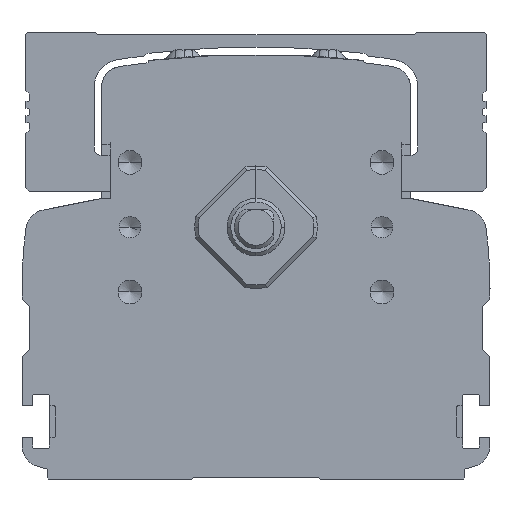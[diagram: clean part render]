
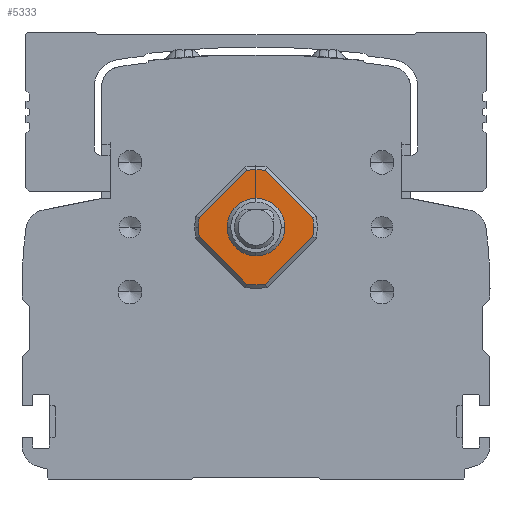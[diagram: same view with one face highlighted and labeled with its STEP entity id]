
A CAD part, front view. The second image highlights one B-rep face of the part: STEP entity #5333.
In plain terms, the highlighted planar face has unit normal (0, -1, 0).
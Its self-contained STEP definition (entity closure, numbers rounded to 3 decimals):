
#5333=ADVANCED_FACE('',(#10581,#10582),#10583,.T.);
#10581=FACE_OUTER_BOUND('',#16682,.T.);
#10582=FACE_BOUND('',#16683,.T.);
#10583=PLANE('',#16684);
#16682=EDGE_LOOP('',(#31707,#31708,#31709,#31710,#31711,#31712,#31713,#31714,#31715,#31716));
#16683=EDGE_LOOP('',(#31717,#31718));
#16684=AXIS2_PLACEMENT_3D('',#31719,#31720,#31721);
#31707=ORIENTED_EDGE('',*,*,#34114,.T.);
#31708=ORIENTED_EDGE('',*,*,#37804,.T.);
#31709=ORIENTED_EDGE('',*,*,#32008,.T.);
#31710=ORIENTED_EDGE('',*,*,#37887,.T.);
#31711=ORIENTED_EDGE('',*,*,#33951,.T.);
#31712=ORIENTED_EDGE('',*,*,#37901,.T.);
#31713=ORIENTED_EDGE('',*,*,#32829,.T.);
#31714=ORIENTED_EDGE('',*,*,#33580,.T.);
#31715=ORIENTED_EDGE('',*,*,#34669,.T.);
#31716=ORIENTED_EDGE('',*,*,#35233,.T.);
#31717=ORIENTED_EDGE('',*,*,#37892,.T.);
#31718=ORIENTED_EDGE('',*,*,#34532,.T.);
#31719=CARTESIAN_POINT('',(300.,108.0,9.899));
#31720=DIRECTION('',(0.,-1.0,0.));
#31721=DIRECTION('',(1.0,0.,0.));
#32008=EDGE_CURVE('',#38006,#38003,#38007,.F.);
#32829=EDGE_CURVE('',#39385,#39386,#39387,.T.);
#33580=EDGE_CURVE('',#39386,#40632,#40634,.F.);
#33951=EDGE_CURVE('',#41247,#41245,#41248,.T.);
#34114=EDGE_CURVE('',#41511,#41509,#41512,.F.);
#34532=EDGE_CURVE('',#42173,#42171,#42174,.F.);
#34669=EDGE_CURVE('',#40632,#42369,#42371,.F.);
#35233=EDGE_CURVE('',#42369,#41511,#43188,.T.);
#37804=EDGE_CURVE('',#41509,#38006,#46578,.T.);
#37887=EDGE_CURVE('',#38003,#41247,#46666,.F.);
#37892=EDGE_CURVE('',#42171,#42173,#46671,.F.);
#37901=EDGE_CURVE('',#41245,#39385,#46680,.F.);
#38003=VERTEX_POINT('',#46802);
#38006=VERTEX_POINT('',#46806);
#38007=CIRCLE('',#46807,8.0);
#39385=VERTEX_POINT('',#48760);
#39386=VERTEX_POINT('',#48761);
#39387=LINE('',#48762,#48763);
#40632=VERTEX_POINT('',#50497);
#40634=CIRCLE('',#50500,8.0);
#41245=VERTEX_POINT('',#51321);
#41247=VERTEX_POINT('',#51326);
#41248=LINE('',#51327,#51328);
#41509=VERTEX_POINT('',#51692);
#41511=VERTEX_POINT('',#51697);
#41512=CIRCLE('',#51698,8.0);
#42171=VERTEX_POINT('',#52673);
#42173=VERTEX_POINT('',#52676);
#42174=CIRCLE('',#52677,4.);
#42369=VERTEX_POINT('',#52950);
#42371=CIRCLE('',#52955,8.0);
#43188=LINE('',#54125,#54126);
#46578=LINE('',#59207,#59208);
#46666=CIRCLE('',#59315,8.0);
#46671=CIRCLE('',#59321,4.);
#46680=CIRCLE('',#59331,8.0);
#46802=CARTESIAN_POINT('',(308.,108.0,0.));
#46806=CARTESIAN_POINT('',(307.894,108.0,-1.298));
#46807=AXIS2_PLACEMENT_3D('',#59422,#59423,#59424);
#48760=CARTESIAN_POINT('',(298.702,108.0,7.894));
#48761=CARTESIAN_POINT('',(292.106,108.0,1.298));
#48762=CARTESIAN_POINT('',(298.702,108.0,7.894));
#48763=VECTOR('',#60486,1000.0);
#50497=CARTESIAN_POINT('',(292.,108.0,0.));
#50500=AXIS2_PLACEMENT_3D('',#61328,#61329,#61330);
#51321=CARTESIAN_POINT('',(301.298,108.0,7.894));
#51326=CARTESIAN_POINT('',(307.894,108.0,1.298));
#51327=CARTESIAN_POINT('',(307.894,108.0,1.298));
#51328=VECTOR('',#61848,1000.0);
#51692=CARTESIAN_POINT('',(301.298,108.0,-7.894));
#51697=CARTESIAN_POINT('',(298.702,108.0,-7.894));
#51698=AXIS2_PLACEMENT_3D('',#62022,#62023,#62024);
#52673=CARTESIAN_POINT('',(304.,108.0,0.));
#52676=CARTESIAN_POINT('',(296.,108.0,0.));
#52677=AXIS2_PLACEMENT_3D('',#62495,#62496,#62497);
#52950=CARTESIAN_POINT('',(292.106,108.0,-1.298));
#52955=AXIS2_PLACEMENT_3D('',#62643,#62644,#62645);
#54125=CARTESIAN_POINT('',(292.106,108.0,-1.298));
#54126=VECTOR('',#63263,1000.0);
#59207=CARTESIAN_POINT('',(301.298,108.0,-7.894));
#59208=VECTOR('',#65785,1000.0);
#59315=AXIS2_PLACEMENT_3D('',#65814,#65815,#65816);
#59321=AXIS2_PLACEMENT_3D('',#65818,#65819,#65820);
#59331=AXIS2_PLACEMENT_3D('',#65822,#65823,#65824);
#59422=CARTESIAN_POINT('',(300.,108.0,0.));
#59423=DIRECTION('',(0.,1.0,0.));
#59424=DIRECTION('',(-1.0,0.,0.));
#60486=DIRECTION('',(-0.707,0.,-0.707));
#61328=CARTESIAN_POINT('',(300.,108.0,0.));
#61329=DIRECTION('',(0.,1.0,0.));
#61330=DIRECTION('',(-1.0,0.,0.));
#61848=DIRECTION('',(-0.707,0.,0.707));
#62022=CARTESIAN_POINT('',(300.,108.0,0.));
#62023=DIRECTION('',(0.,1.0,0.));
#62024=DIRECTION('',(-1.0,0.,0.));
#62495=CARTESIAN_POINT('',(300.,108.0,0.));
#62496=DIRECTION('',(0.,-1.0,0.));
#62497=DIRECTION('',(1.0,0.,0.));
#62643=CARTESIAN_POINT('',(300.,108.0,0.));
#62644=DIRECTION('',(0.,1.0,0.));
#62645=DIRECTION('',(-1.0,0.,0.));
#63263=DIRECTION('',(0.707,0.,-0.707));
#65785=DIRECTION('',(0.707,0.,0.707));
#65814=CARTESIAN_POINT('',(300.,108.0,0.));
#65815=DIRECTION('',(0.,1.0,0.));
#65816=DIRECTION('',(-1.0,0.,0.));
#65818=CARTESIAN_POINT('',(300.,108.0,0.));
#65819=DIRECTION('',(0.,-1.0,0.));
#65820=DIRECTION('',(1.0,0.,0.));
#65822=CARTESIAN_POINT('',(300.,108.0,0.));
#65823=DIRECTION('',(0.,1.0,0.));
#65824=DIRECTION('',(-1.0,0.,0.));
